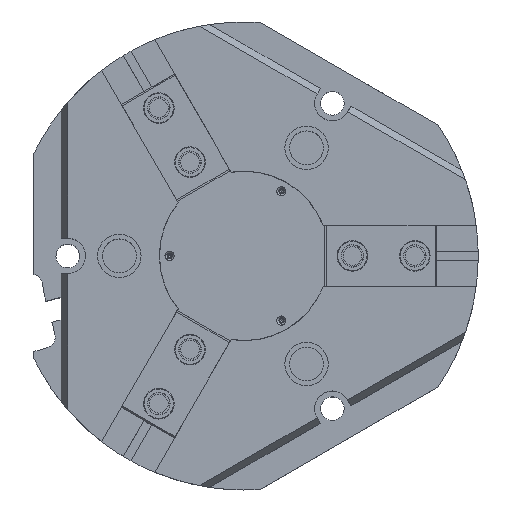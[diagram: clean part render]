
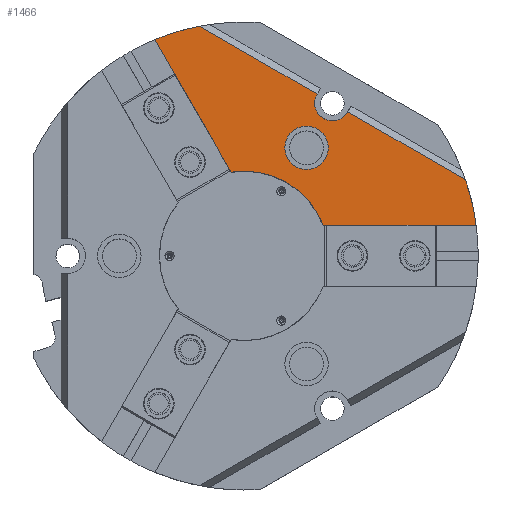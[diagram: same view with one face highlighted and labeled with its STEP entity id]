
A CAD part, top view. The second image highlights one B-rep face of the part: STEP entity #1466.
In plain terms, the highlighted planar face has unit normal (0, 0, 1) as drawn and (0, 1, 0) by its records, which use the part's own axes.
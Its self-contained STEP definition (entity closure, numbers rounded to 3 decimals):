
#360 = CIRCLE ( 'NONE', #11377, 172.5 ) ;
#378 = VERTEX_POINT ( 'NONE', #3363 ) ;
#464 = EDGE_CURVE ( 'NONE', #8942, #17088, #12940, .T. ) ;
#576 = EDGE_CURVE ( 'NONE', #3099, #12629, #8138, .T. ) ;
#766 = EDGE_CURVE ( 'NONE', #378, #10832, #2479, .T. ) ;
#791 = ORIENTED_EDGE ( 'NONE', *, *, #464, .F. ) ;
#1173 = ORIENTED_EDGE ( 'NONE', *, *, #15372, .F. ) ;
#1310 = DIRECTION ( 'NONE',  ( -1., 0., 0. ) ) ;
#1466 = ADVANCED_FACE ( 'NONE', ( #16447, #6221 ), #15124, .F. ) ;
#1506 = CARTESIAN_POINT ( 'NONE',  ( 39.122, 130., 48.741 ) ) ;
#1751 = CARTESIAN_POINT ( 'NONE',  ( 0., 130., 130. ) ) ;
#1931 = DIRECTION ( 'NONE',  ( 0., -1., 0. ) ) ;
#2154 = DIRECTION ( 'NONE',  ( 0., 0., -1. ) ) ;
#2261 = EDGE_CURVE ( 'NONE', #9603, #7038, #5375, .T. ) ;
#2479 = LINE ( 'NONE', #14234, #2880 ) ;
#2541 = ORIENTED_EDGE ( 'NONE', *, *, #15243, .F. ) ;
#2597 = DIRECTION ( 'NONE',  ( -1., 0., 0. ) ) ;
#2683 = LINE ( 'NONE', #14590, #16477 ) ;
#2688 = ORIENTED_EDGE ( 'NONE', *, *, #766, .F. ) ;
#2880 = VECTOR ( 'NONE', #4895, 1000. ) ;
#2953 = AXIS2_PLACEMENT_3D ( 'NONE', #8032, #10510, #9358 ) ;
#3098 = DIRECTION ( 'NONE',  ( 0., 0., 1. ) ) ;
#3099 = VERTEX_POINT ( 'NONE', #10847 ) ;
#3363 = CARTESIAN_POINT ( 'NONE',  ( -13., 130., 130. ) ) ;
#3411 = DIRECTION ( 'NONE',  ( -0.866, 0., 0.5 ) ) ;
#3502 = AXIS2_PLACEMENT_3D ( 'NONE', #12963, #14434, #2154 ) ;
#3678 = EDGE_LOOP ( 'NONE', ( #10496, #14369 ) ) ;
#4015 = ORIENTED_EDGE ( 'NONE', *, *, #12092, .F. ) ;
#4051 = ORIENTED_EDGE ( 'NONE', *, *, #576, .F. ) ;
#4549 = DIRECTION ( 'NONE',  ( 0., 0., -1. ) ) ;
#4711 = ORIENTED_EDGE ( 'NONE', *, *, #10348, .F. ) ;
#4895 = DIRECTION ( 'NONE',  ( 0., 0., 1. ) ) ;
#5375 = CIRCLE ( 'NONE', #2953, 16. ) ;
#5453 = VECTOR ( 'NONE', #1310, 1000. ) ;
#5640 = ORIENTED_EDGE ( 'NONE', *, *, #15575, .F. ) ;
#5792 = VECTOR ( 'NONE', #3411, 1000. ) ;
#6221 = FACE_OUTER_BOUND ( 'NONE', #9553, .T. ) ;
#6626 = CARTESIAN_POINT ( 'NONE',  ( 0., 130., 76. ) ) ;
#6669 = LINE ( 'NONE', #14904, #7086 ) ;
#6794 = DIRECTION ( 'NONE',  ( 0., 1., 0. ) ) ;
#7038 = VERTEX_POINT ( 'NONE', #6626 ) ;
#7086 = VECTOR ( 'NONE', #13599, 1000. ) ;
#7112 = EDGE_CURVE ( 'NONE', #7038, #9603, #11929, .T. ) ;
#7256 = CARTESIAN_POINT ( 'NONE',  ( 13., 130., 130.2 ) ) ;
#7603 = CARTESIAN_POINT ( 'NONE',  ( -39.122, 130., 48.741 ) ) ;
#8032 = CARTESIAN_POINT ( 'NONE',  ( 0., 130., 92. ) ) ;
#8138 = CIRCLE ( 'NONE', #13352, 172.5 ) ;
#8910 = LINE ( 'NONE', #10049, #5792 ) ;
#8942 = VERTEX_POINT ( 'NONE', #7603 ) ;
#9130 = VERTEX_POINT ( 'NONE', #15818 ) ;
#9358 = DIRECTION ( 'NONE',  ( 0., 0., 1. ) ) ;
#9375 = CARTESIAN_POINT ( 'NONE',  ( 113.156, 130., 130.2 ) ) ;
#9447 = CARTESIAN_POINT ( 'NONE',  ( -113.156, 130., 130.2 ) ) ;
#9553 = EDGE_LOOP ( 'NONE', ( #14889, #5640, #4711, #2688, #15663, #1173, #2541, #4051, #4015, #791 ) ) ;
#9603 = VERTEX_POINT ( 'NONE', #11749 ) ;
#9910 = CARTESIAN_POINT ( 'NONE',  ( 0., 130., 0. ) ) ;
#10049 = CARTESIAN_POINT ( 'NONE',  ( -63.37, 130., 62.74 ) ) ;
#10348 = EDGE_CURVE ( 'NONE', #10832, #12048, #2683, .T. ) ;
#10496 = ORIENTED_EDGE ( 'NONE', *, *, #2261, .F. ) ;
#10510 = DIRECTION ( 'NONE',  ( 0., 1., 0. ) ) ;
#10677 = AXIS2_PLACEMENT_3D ( 'NONE', #1751, #11101, #3098 ) ;
#10832 = VERTEX_POINT ( 'NONE', #14558 ) ;
#10847 = CARTESIAN_POINT ( 'NONE',  ( 136.771, 130., 105.119 ) ) ;
#10960 = EDGE_CURVE ( 'NONE', #378, #12932, #12065, .T. ) ;
#11058 = VERTEX_POINT ( 'NONE', #7256 ) ;
#11101 = DIRECTION ( 'NONE',  ( 0., -1., 0. ) ) ;
#11173 = CARTESIAN_POINT ( 'NONE',  ( 0., 130., 172.5 ) ) ;
#11268 = DIRECTION ( 'NONE',  ( 0., 0., -1. ) ) ;
#11377 = AXIS2_PLACEMENT_3D ( 'NONE', #9910, #1931, #11268 ) ;
#11749 = CARTESIAN_POINT ( 'NONE',  ( 0., 130., 108. ) ) ;
#11929 = CIRCLE ( 'NONE', #14047, 16. ) ;
#12048 = VERTEX_POINT ( 'NONE', #9447 ) ;
#12065 = CIRCLE ( 'NONE', #10677, 13. ) ;
#12092 = EDGE_CURVE ( 'NONE', #17088, #3099, #6669, .T. ) ;
#12425 = DIRECTION ( 'NONE',  ( 0., 0., -1. ) ) ;
#12508 = LINE ( 'NONE', #17286, #5453 ) ;
#12533 = DIRECTION ( 'NONE',  ( 0., -1., 0. ) ) ;
#12629 = VERTEX_POINT ( 'NONE', #9375 ) ;
#12682 = CARTESIAN_POINT ( 'NONE',  ( 13., 130., 130. ) ) ;
#12932 = VERTEX_POINT ( 'NONE', #12682 ) ;
#12940 = CIRCLE ( 'NONE', #3502, 62.5 ) ;
#12963 = CARTESIAN_POINT ( 'NONE',  ( 0., 130., 0. ) ) ;
#12971 = EDGE_CURVE ( 'NONE', #8942, #9130, #8910, .T. ) ;
#13352 = AXIS2_PLACEMENT_3D ( 'NONE', #15021, #13712, #12425 ) ;
#13599 = DIRECTION ( 'NONE',  ( 0.866, 0., 0.5 ) ) ;
#13712 = DIRECTION ( 'NONE',  ( 0., -1., 0. ) ) ;
#14047 = AXIS2_PLACEMENT_3D ( 'NONE', #14800, #6794, #16151 ) ;
#14141 = AXIS2_PLACEMENT_3D ( 'NONE', #11173, #12533, #4549 ) ;
#14234 = CARTESIAN_POINT ( 'NONE',  ( -13., 130., 130. ) ) ;
#14369 = ORIENTED_EDGE ( 'NONE', *, *, #7112, .F. ) ;
#14412 = VECTOR ( 'NONE', #14805, 1000. ) ;
#14434 = DIRECTION ( 'NONE',  ( 0., 1., 0. ) ) ;
#14558 = CARTESIAN_POINT ( 'NONE',  ( -13., 130., 130.2 ) ) ;
#14590 = CARTESIAN_POINT ( 'NONE',  ( 0., 130., 130.2 ) ) ;
#14800 = CARTESIAN_POINT ( 'NONE',  ( 0., 130., 92. ) ) ;
#14805 = DIRECTION ( 'NONE',  ( 0., 0., -1. ) ) ;
#14832 = LINE ( 'NONE', #16155, #14412 ) ;
#14889 = ORIENTED_EDGE ( 'NONE', *, *, #12971, .T. ) ;
#14904 = CARTESIAN_POINT ( 'NONE',  ( 63.37, 130., 62.74 ) ) ;
#15021 = CARTESIAN_POINT ( 'NONE',  ( 0., 130., 0. ) ) ;
#15124 = PLANE ( 'NONE',  #14141 ) ;
#15243 = EDGE_CURVE ( 'NONE', #12629, #11058, #12508, .T. ) ;
#15372 = EDGE_CURVE ( 'NONE', #11058, #12932, #14832, .T. ) ;
#15575 = EDGE_CURVE ( 'NONE', #12048, #9130, #360, .T. ) ;
#15663 = ORIENTED_EDGE ( 'NONE', *, *, #10960, .T. ) ;
#15818 = CARTESIAN_POINT ( 'NONE',  ( -136.771, 130., 105.119 ) ) ;
#16151 = DIRECTION ( 'NONE',  ( 0., 0., 1. ) ) ;
#16155 = CARTESIAN_POINT ( 'NONE',  ( 13., 130., 145. ) ) ;
#16447 = FACE_BOUND ( 'NONE', #3678, .T. ) ;
#16477 = VECTOR ( 'NONE', #2597, 1000. ) ;
#17088 = VERTEX_POINT ( 'NONE', #1506 ) ;
#17286 = CARTESIAN_POINT ( 'NONE',  ( 0., 130., 130.2 ) ) ;
